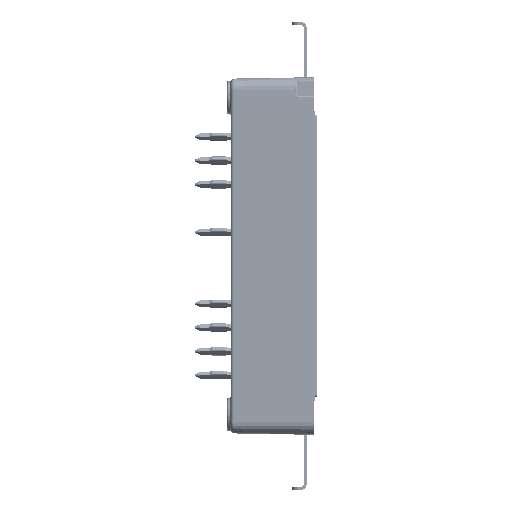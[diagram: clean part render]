
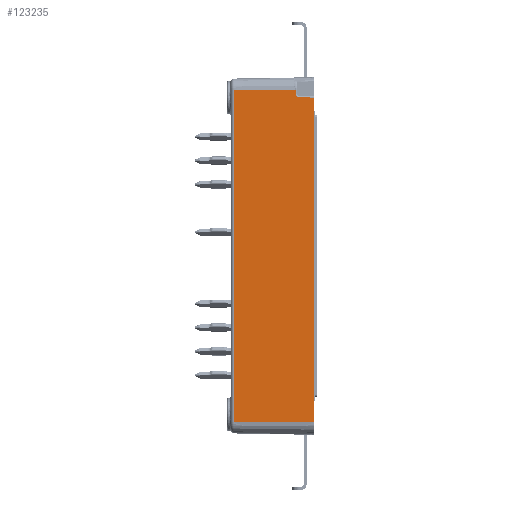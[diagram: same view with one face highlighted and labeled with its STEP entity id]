
A CAD part, left-side view. The second image highlights one B-rep face of the part: STEP entity #123235.
In plain terms, the highlighted planar face has unit normal (-1, 0.018, 0).
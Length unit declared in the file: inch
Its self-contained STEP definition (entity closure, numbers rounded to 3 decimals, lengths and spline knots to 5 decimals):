
#575 = DIRECTION ( 'NONE',  ( 0.017, 1., 0.017 ) ) ;
#1673 = CARTESIAN_POINT ( 'NONE',  ( -0.40868, 1.09534, 2.59636 ) ) ;
#2629 = EDGE_CURVE ( 'NONE', #181170, #119995, #140096, .T. ) ;
#14773 = VECTOR ( 'NONE', #52548, 39.37008 ) ;
#15339 = VECTOR ( 'NONE', #575, 39.37008 ) ;
#18153 = DIRECTION ( 'NONE',  ( 0., 0., -1. ) ) ;
#24670 = VERTEX_POINT ( 'NONE', #46458 ) ;
#25187 = DIRECTION ( 'NONE',  ( 0., 0., 1. ) ) ;
#28294 = ORIENTED_EDGE ( 'NONE', *, *, #200665, .T. ) ;
#30505 = CARTESIAN_POINT ( 'NONE',  ( -0.40872, 1.09345, 2.63728 ) ) ;
#36320 = VECTOR ( 'NONE', #187856, 39.37008 ) ;
#40670 = DIRECTION ( 'NONE',  ( -1., 0.017, 0. ) ) ;
#45776 = CARTESIAN_POINT ( 'NONE',  ( -0.40872, 1.09345, 2.59633 ) ) ;
#45794 = EDGE_CURVE ( 'NONE', #104256, #210110, #154038, .T. ) ;
#46458 = CARTESIAN_POINT ( 'NONE',  ( -0.40129, 1.51893, 0.88137 ) ) ;
#51803 = LINE ( 'NONE', #104726, #99732 ) ;
#52548 = DIRECTION ( 'NONE',  ( 0., 0., 1. ) ) ;
#68311 =( BOUNDED_CURVE ( )  B_SPLINE_CURVE ( 3, ( #97610, #222161, #167974, #87193 ),
 .UNSPECIFIED., .F., .F. ) 
 B_SPLINE_CURVE_WITH_KNOTS ( ( 4, 4 ),
 ( 3.14159, 4.69494 ),
 .UNSPECIFIED. ) 
 CURVE ( )  GEOMETRIC_REPRESENTATION_ITEM ( )  RATIONAL_B_SPLINE_CURVE ( ( 1., 0.809, 0.809, 1. ) ) 
 REPRESENTATION_ITEM ( '' )  );
#79103 = CARTESIAN_POINT ( 'NONE',  ( -0.40129, 1.51893, 2.63728 ) ) ;
#79192 = CARTESIAN_POINT ( 'NONE',  ( -0.40727, 1.17654, 2.59778 ) ) ;
#85991 = DIRECTION ( 'NONE',  ( 0.017, 1., 0. ) ) ;
#86687 = EDGE_LOOP ( 'NONE', ( #185381, #28294, #169730, #149324, #124922, #172723, #216125 ) ) ;
#87193 = CARTESIAN_POINT ( 'NONE',  ( -0.40727, 1.17654, 2.59778 ) ) ;
#97610 = CARTESIAN_POINT ( 'NONE',  ( -0.407, 1.19202, 2.61352 ) ) ;
#99732 = VECTOR ( 'NONE', #18153, 39.37008 ) ;
#103195 = EDGE_CURVE ( 'NONE', #119384, #221573, #68311, .T. ) ;
#104256 = VERTEX_POINT ( 'NONE', #195425 ) ;
#104726 = CARTESIAN_POINT ( 'NONE',  ( -0.40129, 1.51893, 2.70421 ) ) ;
#108772 = FACE_OUTER_BOUND ( 'NONE', #86687, .T. ) ;
#112885 = LINE ( 'NONE', #182248, #133730 ) ;
#113513 = CARTESIAN_POINT ( 'NONE',  ( -0.407, 1.19202, 2.61352 ) ) ;
#117301 = CARTESIAN_POINT ( 'NONE',  ( -0.40872, 1.09345, 0.88137 ) ) ;
#119384 = VERTEX_POINT ( 'NONE', #113513 ) ;
#119995 = VERTEX_POINT ( 'NONE', #45776 ) ;
#123235 = ADVANCED_FACE ( 'NONE', ( #108772 ), #224841, .T. ) ;
#124922 = ORIENTED_EDGE ( 'NONE', *, *, #45794, .T. ) ;
#126635 = EDGE_CURVE ( 'NONE', #119384, #104256, #112885, .T. ) ;
#133730 = VECTOR ( 'NONE', #25187, 39.37008 ) ;
#139200 = LINE ( 'NONE', #117301, #36320 ) ;
#140096 = LINE ( 'NONE', #194403, #14773 ) ;
#147690 = EDGE_CURVE ( 'NONE', #210110, #24670, #51803, .T. ) ;
#149324 = ORIENTED_EDGE ( 'NONE', *, *, #126635, .T. ) ;
#152241 = CARTESIAN_POINT ( 'NONE',  ( -0.40872, 1.09345, 2.70421 ) ) ;
#154038 = LINE ( 'NONE', #30505, #208443 ) ;
#156456 = EDGE_CURVE ( 'NONE', #24670, #181170, #139200, .T. ) ;
#167974 = CARTESIAN_POINT ( 'NONE',  ( -0.40711, 1.18564, 2.59794 ) ) ;
#169730 = ORIENTED_EDGE ( 'NONE', *, *, #103195, .F. ) ;
#172723 = ORIENTED_EDGE ( 'NONE', *, *, #147690, .T. ) ;
#181170 = VERTEX_POINT ( 'NONE', #202253 ) ;
#182248 = CARTESIAN_POINT ( 'NONE',  ( -0.407, 1.19202, 2.63728 ) ) ;
#185381 = ORIENTED_EDGE ( 'NONE', *, *, #2629, .T. ) ;
#187856 = DIRECTION ( 'NONE',  ( -0.017, -1., 0. ) ) ;
#189210 = DIRECTION ( 'NONE',  ( -0.017, -1., 0. ) ) ;
#190182 = AXIS2_PLACEMENT_3D ( 'NONE', #152241, #40670, #189210 ) ;
#194403 = CARTESIAN_POINT ( 'NONE',  ( -0.40872, 1.09345, 2.70421 ) ) ;
#195425 = CARTESIAN_POINT ( 'NONE',  ( -0.407, 1.19202, 2.63728 ) ) ;
#200665 = EDGE_CURVE ( 'NONE', #119995, #221573, #212854, .T. ) ;
#202253 = CARTESIAN_POINT ( 'NONE',  ( -0.40872, 1.09345, 0.88137 ) ) ;
#208443 = VECTOR ( 'NONE', #85991, 39.37008 ) ;
#210110 = VERTEX_POINT ( 'NONE', #79103 ) ;
#212854 = LINE ( 'NONE', #1673, #15339 ) ;
#216125 = ORIENTED_EDGE ( 'NONE', *, *, #156456, .T. ) ;
#221573 = VERTEX_POINT ( 'NONE', #79192 ) ;
#222161 = CARTESIAN_POINT ( 'NONE',  ( -0.407, 1.19202, 2.60442 ) ) ;
#224841 = PLANE ( 'NONE',  #190182 ) ;
